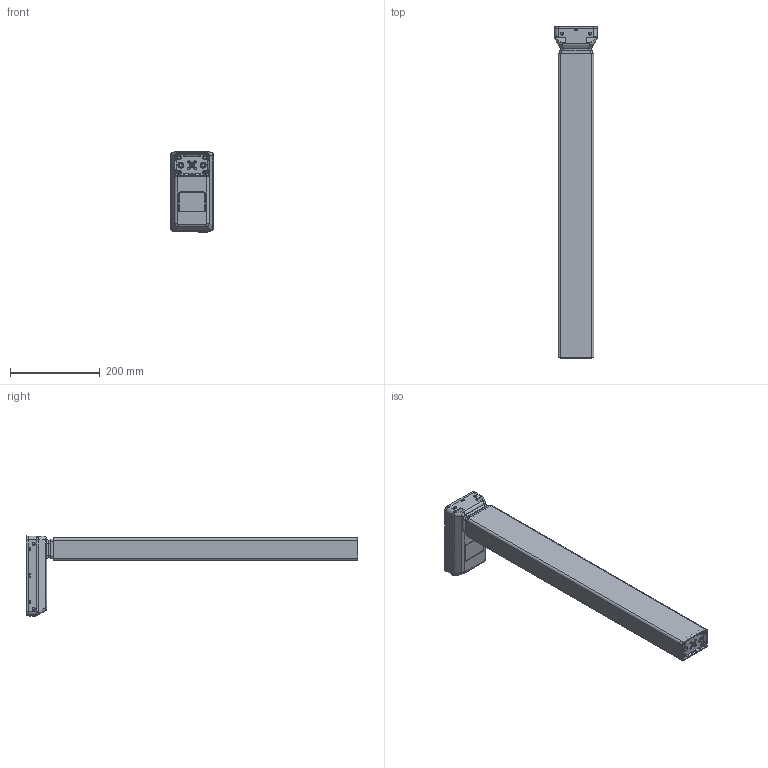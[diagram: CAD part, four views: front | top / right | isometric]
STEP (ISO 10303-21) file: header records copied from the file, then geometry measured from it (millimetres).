
FILE_DESCRIPTION((''),'2;1');
FILE_NAME('DL6_PLUS_XL_ASM','2022-08-23T11:37:02',('tmm'),(''),'CREO PARAMETRIC BY PTC INC, 2022024','CREO PARAMETRIC BY PTC INC, 2022024','');
FILE_SCHEMA(('AUTOMOTIVE_DESIGN { 1 0 10303 214 1 1 1 1 }'));
Length unit declared in the file: millimetre
Products named in the file (4): DL6PLUS_MP1_XL; STANDART_MOTORHUS_DL6_XL; DL6PLUS_OUT1_XL; DL6_PLUS_XL_ASM
Assembly tree (3 placements, depth 2):
  DL6_PLUS_XL_ASM
    DL6PLUS_MP1_XL
    STANDART_MOTORHUS_DL6_XL
    DL6PLUS_OUT1_XL
Bounding box: 96.5 x 740 x 178.6 mm (x, y, z)
Volume: 4947554.2 mm3; surface area: 358644 mm2
Topology: 3 solids, 4 shells, 917 faces, 2618 edges, 1732 vertices
Faces by surface type: plane 385, cylinder 367, torus 98, bspline 47, sphere 16, cone 4
Entity records: 38890 total; most frequent: CARTESIAN_POINT 10707, ORIENTED_EDGE 5206, DIRECTION 4994, EDGE_CURVE 2603, AXIS2_PLACEMENT_3D 1875, VERTEX_POINT 1732, VECTOR 1244, LINE 1244
